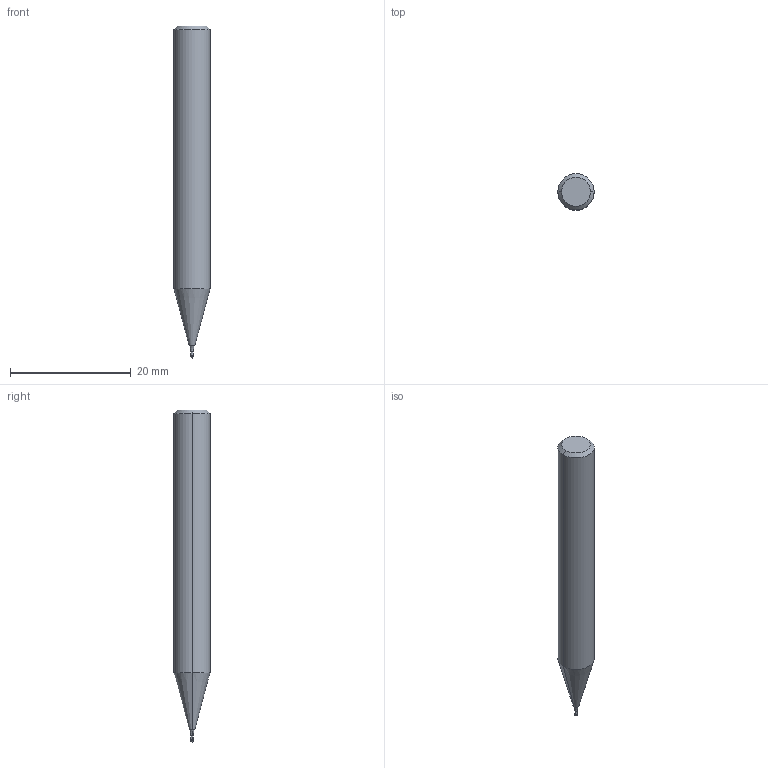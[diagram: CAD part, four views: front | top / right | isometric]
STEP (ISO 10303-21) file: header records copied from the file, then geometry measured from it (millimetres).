
FILE_DESCRIPTION (( 'STEP AP214' ), '1' );
FILE_NAME ('559.031.13_3D-model.step', '2022-02-18T15:01:50', ( '' ), ( '' ), 'SwSTEP 2.0', 'SolidWorks 2020', '' );
FILE_SCHEMA (( 'AUTOMOTIVE_DESIGN' ));
Length unit declared in the file: millimetre
Products named in the file (3): NOCUT-3D^Baugr104; CUT-3D^Baugr104; 559.031.13_3D-model
Assembly tree (2 placements, depth 2):
  559.031.13_3D-model
    CUT-3D^Baugr104
    NOCUT-3D^Baugr104
Bounding box: 6 x 6 x 55 mm (x, y, z)
Volume: 1332.6 mm3; surface area: 951.4 mm2
Topology: 2 solids, 2 shells, 19 faces, 38 edges, 21 vertices
Faces by surface type: cylinder 6, cone 6, plane 3, sphere 2, torus 2
Entity records: 604 total; most frequent: DIRECTION 114, CARTESIAN_POINT 84, ORIENTED_EDGE 72, AXIS2_PLACEMENT_3D 51, EDGE_CURVE 36, CIRCLE 24, VERTEX_POINT 21, EDGE_LOOP 19
